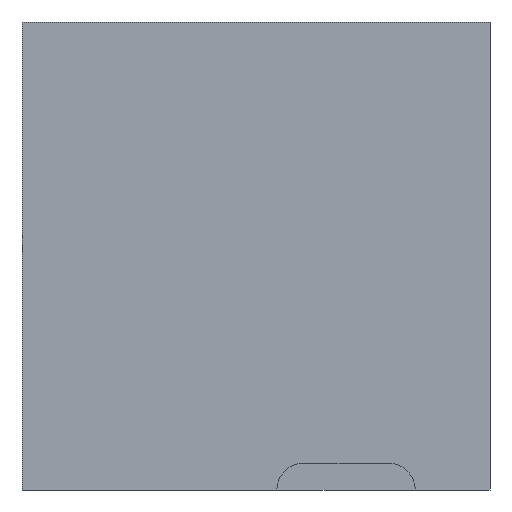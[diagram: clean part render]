
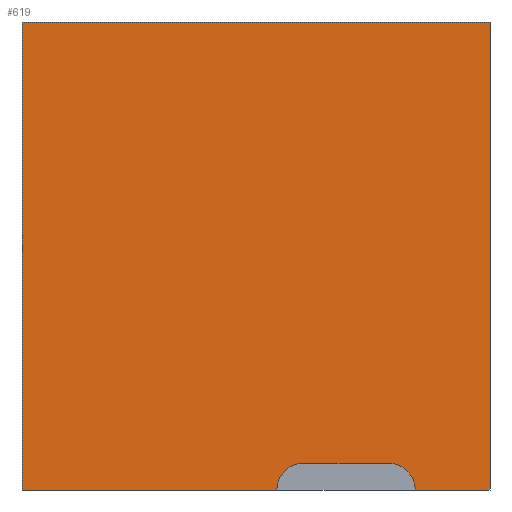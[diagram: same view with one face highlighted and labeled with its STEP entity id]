
A CAD part, left-side view. The second image highlights one B-rep face of the part: STEP entity #619.
In plain terms, the highlighted planar face has unit normal (-1, 0, 0).
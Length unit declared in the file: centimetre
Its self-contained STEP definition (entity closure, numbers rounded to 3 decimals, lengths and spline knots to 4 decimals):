
#2 = DIRECTION ( 'NONE',  ( 0., -1., 0. ) ) ;
#3 = DIRECTION ( 'NONE',  ( 1., 0., 0. ) ) ;
#11 = EDGE_CURVE ( 'NONE', #650, #480, #159, .T. ) ;
#58 = CARTESIAN_POINT ( 'NONE',  ( 0., 1000., 1000. ) ) ;
#69 = EDGE_CURVE ( 'NONE', #519, #964, #612, .T. ) ;
#73 = EDGE_CURVE ( 'NONE', #442, #546, #673, .T. ) ;
#76 = CARTESIAN_POINT ( 'NONE',  ( 0., 216.9858, 0. ) ) ;
#82 = CIRCLE ( 'NONE', #894, 57.3427 ) ;
#95 = VECTOR ( 'NONE', #2, 100. ) ;
#98 = CARTESIAN_POINT ( 'NONE',  ( 0., 455.4392, 0. ) ) ;
#107 = CARTESIAN_POINT ( 'NONE',  ( 0., 216.9858, 57.3427 ) ) ;
#114 = CARTESIAN_POINT ( 'NONE',  ( 0., 1000., 0. ) ) ;
#159 = LINE ( 'NONE', #740, #95 ) ;
#177 = VERTEX_POINT ( 'NONE', #114 ) ;
#196 = VECTOR ( 'NONE', #533, 100. ) ;
#226 = VECTOR ( 'NONE', #861, 100. ) ;
#240 = DIRECTION ( 'NONE',  ( 0., 0., -1. ) ) ;
#250 = CARTESIAN_POINT ( 'NONE',  ( 0., 398.0964, 0. ) ) ;
#254 = LINE ( 'NONE', #611, #850 ) ;
#277 = CARTESIAN_POINT ( 'NONE',  ( 0., 1000., 1000. ) ) ;
#281 = LINE ( 'NONE', #286, #226 ) ;
#286 = CARTESIAN_POINT ( 'NONE',  ( 0., 1000., 0. ) ) ;
#300 = DIRECTION ( 'NONE',  ( 0., 0., -1. ) ) ;
#307 = ORIENTED_EDGE ( 'NONE', *, *, #73, .F. ) ;
#356 = DIRECTION ( 'NONE',  ( 1., 0., 0. ) ) ;
#393 = ORIENTED_EDGE ( 'NONE', *, *, #824, .T. ) ;
#401 = CARTESIAN_POINT ( 'NONE',  ( 0., 398.0964, 57.3427 ) ) ;
#439 = EDGE_CURVE ( 'NONE', #177, #540, #281, .T. ) ;
#442 = VERTEX_POINT ( 'NONE', #107 ) ;
#454 = DIRECTION ( 'NONE',  ( -1., 0., 0. ) ) ;
#460 = CARTESIAN_POINT ( 'NONE',  ( 0., 398.0964, 57.3427 ) ) ;
#465 = CARTESIAN_POINT ( 'NONE',  ( 0., 1000., 1000. ) ) ;
#480 = VERTEX_POINT ( 'NONE', #573 ) ;
#507 = CARTESIAN_POINT ( 'NONE',  ( 0., 159.643, 0. ) ) ;
#515 = CIRCLE ( 'NONE', #653, 57.3427 ) ;
#519 = VERTEX_POINT ( 'NONE', #277 ) ;
#533 = DIRECTION ( 'NONE',  ( 0., -1., 0. ) ) ;
#540 = VERTEX_POINT ( 'NONE', #98 ) ;
#542 = VECTOR ( 'NONE', #744, 100. ) ;
#546 = VERTEX_POINT ( 'NONE', #401 ) ;
#562 = ORIENTED_EDGE ( 'NONE', *, *, #439, .T. ) ;
#573 = CARTESIAN_POINT ( 'NONE',  ( 0., 0., 0. ) ) ;
#611 = CARTESIAN_POINT ( 'NONE',  ( 0., 0., 1000. ) ) ;
#612 = LINE ( 'NONE', #465, #196 ) ;
#613 = CARTESIAN_POINT ( 'NONE',  ( 0., 0., 1000. ) ) ;
#619 = ADVANCED_FACE ( 'NONE', ( #721 ), #652, .F. ) ;
#633 = ORIENTED_EDGE ( 'NONE', *, *, #670, .F. ) ;
#650 = VERTEX_POINT ( 'NONE', #507 ) ;
#652 = PLANE ( 'NONE',  #918 ) ;
#653 = AXIS2_PLACEMENT_3D ( 'NONE', #250, #454, #767 ) ;
#670 = EDGE_CURVE ( 'NONE', #964, #480, #254, .T. ) ;
#671 = ORIENTED_EDGE ( 'NONE', *, *, #69, .F. ) ;
#673 = LINE ( 'NONE', #460, #874 ) ;
#686 = EDGE_LOOP ( 'NONE', ( #307, #852, #887, #633, #671, #393, #562, #924 ) ) ;
#721 = FACE_OUTER_BOUND ( 'NONE', #686, .T. ) ;
#740 = CARTESIAN_POINT ( 'NONE',  ( 0., 1000., 0. ) ) ;
#744 = DIRECTION ( 'NONE',  ( 0., 0., -1. ) ) ;
#767 = DIRECTION ( 'NONE',  ( 0., 0., -1. ) ) ;
#801 = DIRECTION ( 'NONE',  ( 0., 0., -1. ) ) ;
#824 = EDGE_CURVE ( 'NONE', #519, #177, #893, .T. ) ;
#826 = DIRECTION ( 'NONE',  ( 0., 1., 0. ) ) ;
#835 = EDGE_CURVE ( 'NONE', #442, #650, #82, .T. ) ;
#850 = VECTOR ( 'NONE', #240, 100. ) ;
#852 = ORIENTED_EDGE ( 'NONE', *, *, #835, .T. ) ;
#861 = DIRECTION ( 'NONE',  ( 0., -1., 0. ) ) ;
#868 = CARTESIAN_POINT ( 'NONE',  ( 0., 1000., 1000. ) ) ;
#874 = VECTOR ( 'NONE', #826, 100. ) ;
#887 = ORIENTED_EDGE ( 'NONE', *, *, #11, .T. ) ;
#893 = LINE ( 'NONE', #58, #542 ) ;
#894 = AXIS2_PLACEMENT_3D ( 'NONE', #76, #3, #300 ) ;
#918 = AXIS2_PLACEMENT_3D ( 'NONE', #868, #356, #801 ) ;
#924 = ORIENTED_EDGE ( 'NONE', *, *, #925, .F. ) ;
#925 = EDGE_CURVE ( 'NONE', #546, #540, #515, .T. ) ;
#964 = VERTEX_POINT ( 'NONE', #613 ) ;
